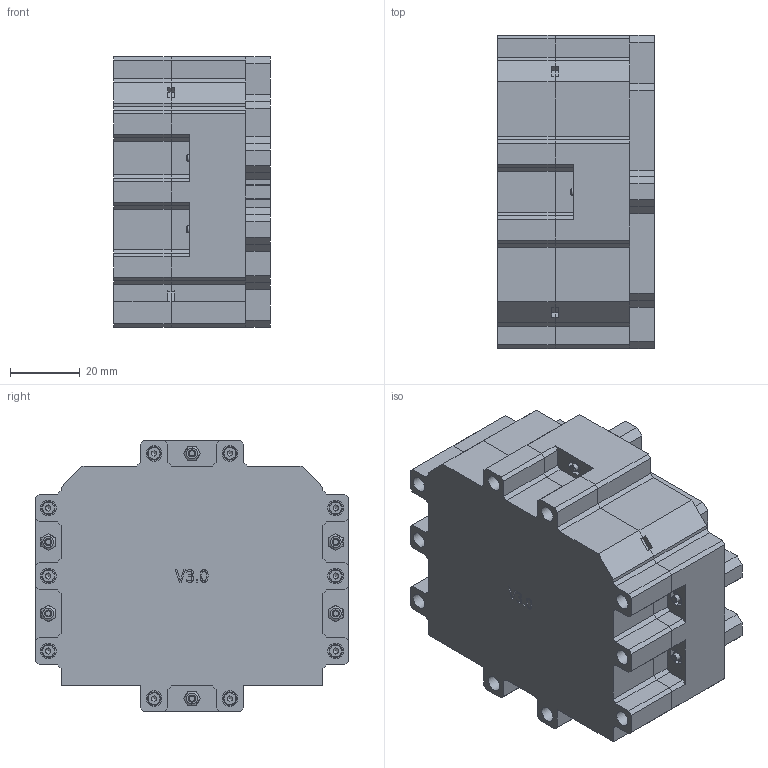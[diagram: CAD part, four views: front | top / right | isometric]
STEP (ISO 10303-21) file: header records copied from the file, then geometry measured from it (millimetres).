
FILE_DESCRIPTION(/* description */ (''),/* implementation_level */ '2;1');
FILE_NAME(/* name */ 'Mold_Assembly_with_ScrewsAndNuts.stp',/* time_stamp */ '2025-08-17T18:18:04+02:00',/* author */ ('MehdiBelhadj'),/* organization */ (''),/* preprocessor_version */ 'ST-DEVELOPER v20.1',/* originating_system */ 'Autodesk Inventor 2026',/* authorisation */ '');
FILE_SCHEMA (('AUTOMOTIVE_DESIGN { 1 0 10303 214 3 1 1 }'));
Length unit declared in the file: millimetre
Products named in the file (7): Main_Mold_Design; Mold_Bottom; Plug; Mold_Top; Core; ISO 4762  - M2 x 20; ISO 4032 - M2
Assembly tree (36 placements, depth 2):
  Main_Mold_Design
    Mold_Bottom
    Plug
    Mold_Top
    Core
    ISO 4762  - M2 x 20  x16
    ISO 4032 - M2  x16
Bounding box: 44.83 x 89.6 x 77.5 mm (x, y, z)
Volume: 211552.8 mm3; surface area: 70980.5 mm2
Topology: 36 solids, 36 shells, 1320 faces, 3438 edges, 2254 vertices
Faces by surface type: plane 849, cylinder 171, bspline 124, cone 96, torus 80
Full cylindrical faces by diameter (mm): 1.567 x16, 2 x16, 2.2 x6, 2.5 x26, 3 x15, 3.8 x16, 4.5 x16
Entity records: 31332 total; most frequent: CARTESIAN_POINT 7772, ORIENTED_EDGE 4894, DIRECTION 4074, EDGE_CURVE 2447, LINE 1806, VECTOR 1806, VERTEX_POINT 1609, AXIS2_PLACEMENT_3D 1134
